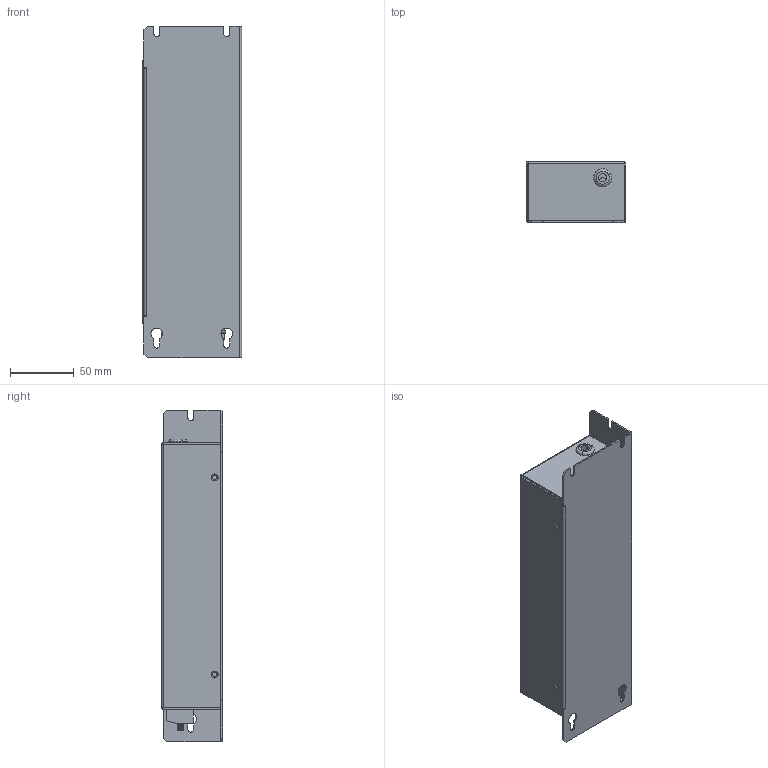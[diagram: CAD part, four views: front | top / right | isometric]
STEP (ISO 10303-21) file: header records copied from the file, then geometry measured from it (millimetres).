
FILE_DESCRIPTION (( 'STEP AP203' ), '1' );
FILE_NAME ('M400-2.STEP', '2016-09-07T08:24:59', ( '' ), ( '' ), 'SwSTEP 2.0', 'SolidWorks 2016', '' );
FILE_SCHEMA (( 'CONFIG_CONTROL_DESIGN' ));
Length unit declared in the file: millimetre
Products named in the file (10): VDFK-4; flat washer narrow_am_B18.22M - Plain washer, 5 mm, narrow; M5x13 Earth post; M400-2 back; M4 Hank 0.6mm; Grommet 15069; hex screw_am_B18.6.7M - M5 x 0.8 x 13 Indented HHMS --13S; M400-2 box; hex nut style 1_am_B18.2.4.1M - Hex nut, Style 1,  M5 x 0.8 --D-N; M400-2
Assembly tree (16 placements, depth 3):
  M400-2
    M400-2 back
    M400-2 box
    M4 Hank 0.6mm  x5
    Grommet 15069
    M5x13 Earth post
      hex screw_am_B18.6.7M - M5 x 0.8 x 13 Indented HHMS --13S
      flat washer narrow_am_B18.22M - Plain washer, 5 mm, narrow  x2
      hex nut style 1_am_B18.2.4.1M - Hex nut, Style 1,  M5 x 0.8 --D-N
    VDFK-4  x3
Bounding box: 78 x 48 x 261 mm (x, y, z)
Volume: 89991 mm3; surface area: 144097 mm2
Topology: 15 solids, 15 shells, 502 faces, 1201 edges, 750 vertices
Faces by surface type: plane 213, cylinder 155, cone 126, bspline 4, torus 4
Entity records: 12349 total; most frequent: CARTESIAN_POINT 2195, DIRECTION 1993, ORIENTED_EDGE 1782, EDGE_CURVE 891, AXIS2_PLACEMENT_3D 768, VERTEX_POINT 554, LINE 457, VECTOR 457
